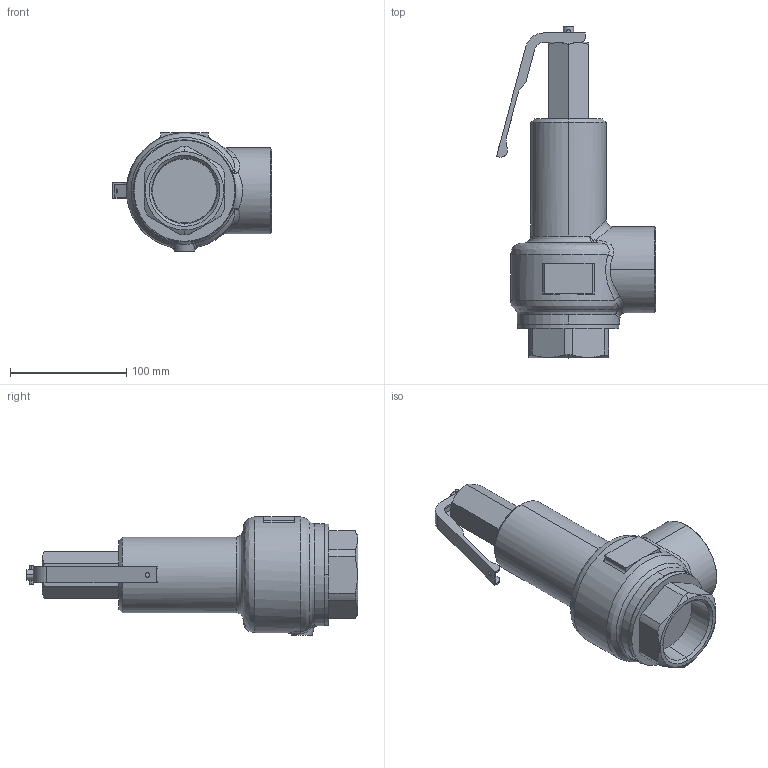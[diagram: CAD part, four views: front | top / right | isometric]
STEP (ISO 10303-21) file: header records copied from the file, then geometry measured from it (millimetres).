
FILE_DESCRIPTION( (''), '2;1');
FILE_NAME ('PC1276.14284.AL-140ML 50A_31251.stp','2025-12-05T09:04:30',(''),(''),'spGate 20.6.3 (****-****-****-****)','','');
FILE_SCHEMA (('AUTOMOTIVE_DESIGN'));
Length unit declared in the file: millimetre
Products named in the file (3): Assembly; AL-15 Lever 40-50A; AL-140ML 50A(Non-Lever)
Assembly tree (2 placements, depth 2):
  Assembly
    AL-15 Lever 40-50A
    AL-140ML 50A(Non-Lever)
Bounding box: 137.03 x 286 x 102 mm (x, y, z)
Volume: 1109082.9 mm3; surface area: 93452.6 mm2
Topology: 2 solids, 2 shells, 147 faces, 365 edges, 230 vertices
Faces by surface type: plane 55, bspline 47, cylinder 43, sphere 2
Entity records: 9449 total; most frequent: CARTESIAN_POINT 3272, ORIENTED_EDGE 726, DIRECTION 608, COLOUR_RGB 512, PRESENTATION_STYLE_ASSIGNMENT 512, STYLED_ITEM 512, EDGE_CURVE 363, DRAUGHTING_PRE_DEFINED_CURVE_FONT 363
